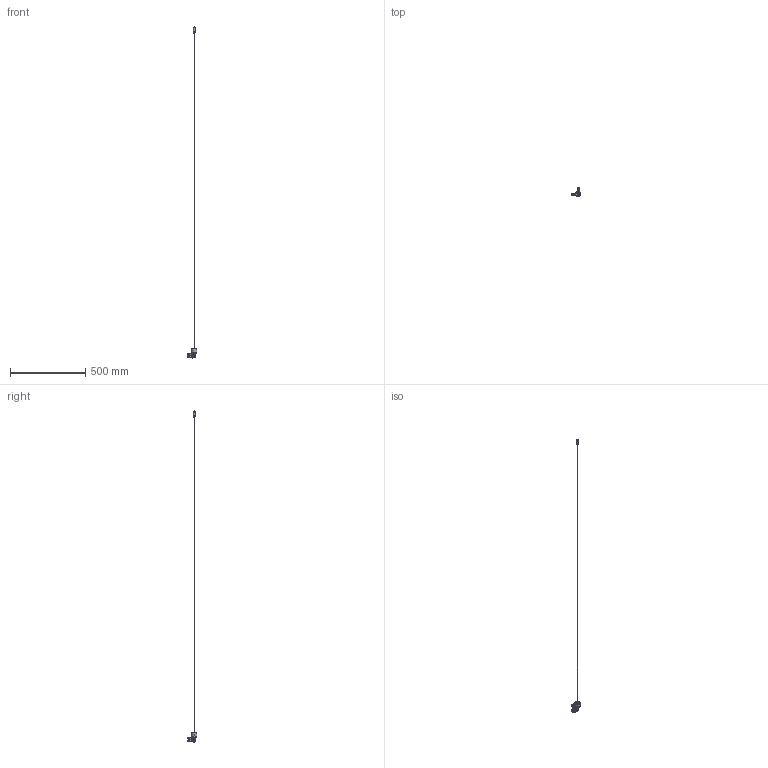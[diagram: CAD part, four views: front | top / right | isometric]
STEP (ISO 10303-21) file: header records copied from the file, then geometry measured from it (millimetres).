
FILE_DESCRIPTION(/* description */ (''),/* implementation_level */ '2;1');
FILE_NAME(/* name */ 'AY700XX.stp',/* time_stamp */ '2022-09-09T14:14:00+02:00',/* author */ (''),/* organization */ (''),/* preprocessor_version */ 'ST-DEVELOPER v16.7',/* originating_system */ 'SIEMENS PLM Software NX 1911',/* authorisation */ '');
FILE_SCHEMA (('AUTOMOTIVE_DESIGN { 1 0 10303 214 3 1 1 1 }'));
Products named in the file (16): X303000024_-; X305000014_-; Y104003731_A; Y104003730_A; Y104003710_A; Y104003709_B; Y104003702_C; Y201002826_A; Y201002824_A; Y104003704_A; Y101001222_A; Y101001221_A; Y106300011_A; X304000029_-; Y104003703_A; AY7X0ZZ_D
Assembly tree (19 placements, depth 2):
  AY7X0ZZ_D
    Y104003703_A  x2
    X304000029_-
    Y106300011_A
    Y101001221_A
    Y101001222_A
    Y104003704_A
    Y201002824_A  x2
    Y201002826_A  x2
    Y104003702_C
    Y104003709_B
    Y104003710_A
    Y104003730_A
    Y104003731_A
    X305000014_-  x2
    X303000024_-
Bounding box: 64.93 x 64.93 x 2209.08 mm (x, y, z)
Volume: 38694.9 mm3; surface area: 45226 mm2
Topology: 19 solids, 19 shells, 2645 faces, 6480 edges, 3810 vertices
Faces by surface type: bspline 1099, cylinder 709, plane 454, cone 199, torus 156, sphere 28
Full cylindrical faces by diameter (mm): 1 x1, 2 x1, 3.2 x1, 3.25 x1, 3.8 x1, 4 x4, 5 x1, 5.5 x1, 6 x2, 6.2 x1, 11.4 x1, 12 x2, 16 x1, 20 x1, 34 x2
Entity records: 136627 total; most frequent: CARTESIAN_POINT 93984, ORIENTED_EDGE 10598, DIRECTION 6186, EDGE_CURVE 5299, VERTEX_POINT 3156, AXIS2_PLACEMENT_3D 2388, EDGE_LOOP 2298, ADVANCED_FACE 2212
